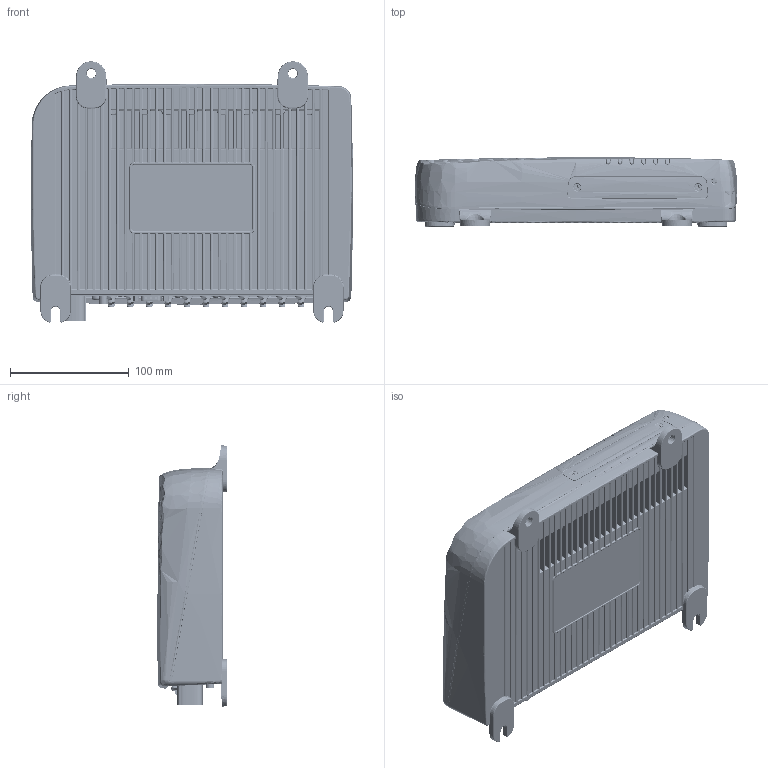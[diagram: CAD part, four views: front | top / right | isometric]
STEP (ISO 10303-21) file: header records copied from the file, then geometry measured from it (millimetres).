
FILE_DESCRIPTION((''),'2;1');
FILE_NAME('1203257_ASM','2016-05-25T',('smar'),('Sierra Wireless'),'PRO/ENGINEER BY PARAMETRIC TECHNOLOGY CORPORATION, 2013130','PRO/ENGINEER BY PARAMETRIC TECHNOLOGY CORPORATION, 2013130','');
FILE_SCHEMA(('AUTOMOTIVE_DESIGN { 1 0 10303 214 1 1 1 1 }'));
Products named in the file (84): OMG-ZETA-TL_SKEL; SWI_LOGO-ZETA; DB100-PAM09_4-2A_2; D100-PAM09_8-2A; DB100-PAM09_6-2A_4; DB100-PAM09_3-2A_2; DB100-PAM09_7-2A_1; DB100-PAM09_4-2A_3; D100-PAM09_8-2A_1; DB100-PAM09_6-2A_5; DB100-PAM09_3-2A_3; DB100-PAM09_9-2A; DB100-PAM09_6-2A; DB100-PAM09_1-2A; DB100-PAM09_6-2A_6; DB100-PAM09_3-2A_4; DB100-PAM09_9-2A_1; DB100-PAM09_6-2A_1; DB100-PAM09_2-2A; DB100-PAM09_6-2A_7; DB100-PAM09_4-2A; DB100-PAM09_6-2A_2; DB100-PAM09_3-2A; DB100-PAM09_6-2A_8; DB100-PAM09_4-2A_1; DB100-PAM09_6-2A_3; DB100-PAM09_3-2A_1; DB100-PAM09_7-2A; DB100-PAM09GFT-2A_ASM_ASM; USB-IP64; MMT-MJK190-PA881GXXPM-6-LXV1-4; FILLET2-100563; CHAMFER2; PUSH-EVQP4_ASM; 1600644_ASM; CONN-PWR-MOLEX-194270107; OMG-ZETA-POWER_INPUT_PCB; 1600645_ASM; 1304104; 1304108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
Assembly tree (123 placements, depth 4):
  1203257_ASM
    OMG-ZETA-TL_SKEL
    SWI_LOGO-ZETA
    1600644_ASM
      DB100-PAM09GFT-2A_ASM_ASM
        DB100-PAM09_4-2A_2
        D100-PAM09_8-2A
        DB100-PAM09_6-2A_4
        DB100-PAM09_3-2A_2
        DB100-PAM09_7-2A_1
        DB100-PAM09_4-2A_3
        D100-PAM09_8-2A_1
        DB100-PAM09_6-2A_5
        DB100-PAM09_3-2A_3
        DB100-PAM09_9-2A
        DB100-PAM09_6-2A
        DB100-PAM09_1-2A
        DB100-PAM09_6-2A_6
        DB100-PAM09_3-2A_4
        DB100-PAM09_9-2A_1
        DB100-PAM09_6-2A_1
        DB100-PAM09_2-2A
        DB100-PAM09_6-2A_7
        DB100-PAM09_4-2A
        DB100-PAM09_6-2A_2
        DB100-PAM09_3-2A
        DB100-PAM09_6-2A_8
        DB100-PAM09_4-2A_1
        DB100-PAM09_6-2A_3
        DB100-PAM09_3-2A_1
        DB100-PAM09_7-2A
      USB-IP64
      MMT-MJK190-PA881GXXPM-6-LXV1-4
      PUSH-EVQP4_ASM
        FILLET2-100563
        CHAMFER2
    1600645_ASM
      CONN-PWR-MOLEX-194270107
      OMG-ZETA-POWER_INPUT_PCB
    1203258_ASM
      1304104
      1304108_ASM
        1304108
        1304108_PSA
      1304107_ASM
        1304107
        PEM-B-440-1ZI  x2
        PEM_BSO4-M4-8
      1500289  x6
    1203259_ASM
      1304105
      1304109
      1304183
      1304184_ASM
        1304184
        1304184_PSA
      1550111  x2
    1203270_ASM
      1304181
      1304182_ASM
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Bounding box: 271.86 x 58.45 x 220.24 mm (x, y, z)
Volume: 657807 mm3; surface area: 464168.2 mm2
Topology: 125 solids, 125 shells, 20704 faces, 53653 edges, 33382 vertices
Faces by surface type: plane 10724, cylinder 5160, bspline 3268, cone 571, torus 534, sphere 367, extrusion 80
Entity records: 799879 total; most frequent: CARTESIAN_POINT 306005, ORIENTED_EDGE 81136, DIRECTION 66240, EDGE_CURVE 40568, PRESENTATION_STYLE_ASSIGNMENT 29970, STYLED_ITEM 29489, VERTEX_POINT 25271, VECTOR 24038
